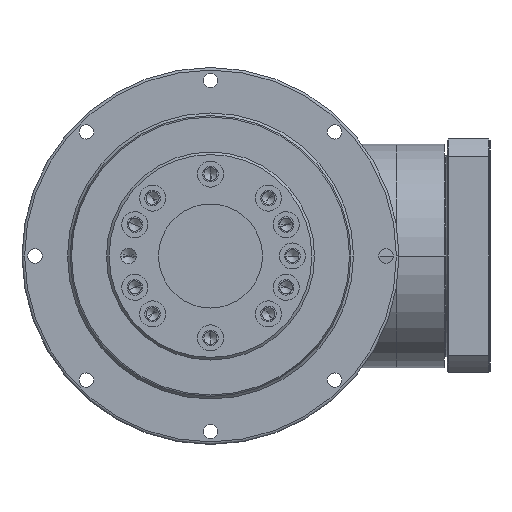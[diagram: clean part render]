
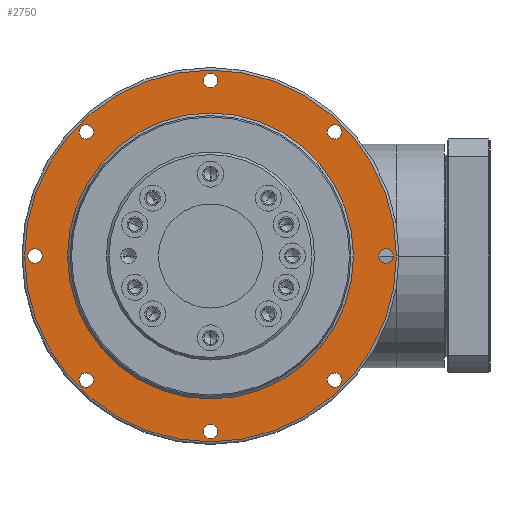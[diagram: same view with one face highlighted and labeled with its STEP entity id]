
A CAD part, left-side view. The second image highlights one B-rep face of the part: STEP entity #2750.
In plain terms, the highlighted planar face has unit normal (-1, 0, 0) as drawn and (1, 0, 0) by its records, which use the part's own axes.
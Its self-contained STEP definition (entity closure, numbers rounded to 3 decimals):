
#83=CARTESIAN_POINT('',(0.,47.73,-47.73));
#84=DIRECTION('',(-1.,0.,0.));
#85=DIRECTION('',(0.,-1.,0.));
#86=AXIS2_PLACEMENT_3D('',#83,#84,#85);
#88=CARTESIAN_POINT('',(0.,47.73,-47.73));
#89=DIRECTION('',(-1.,0.,0.));
#90=DIRECTION('',(0.,1.,0.));
#91=AXIS2_PLACEMENT_3D('',#88,#89,#90);
#93=CARTESIAN_POINT('',(0.,0.,-67.5));
#94=DIRECTION('',(-1.,0.,0.));
#95=DIRECTION('',(0.,-1.,0.));
#96=AXIS2_PLACEMENT_3D('',#93,#94,#95);
#98=CARTESIAN_POINT('',(0.,0.,-67.5));
#99=DIRECTION('',(-1.,0.,0.));
#100=DIRECTION('',(0.,1.,0.));
#101=AXIS2_PLACEMENT_3D('',#98,#99,#100);
#103=CARTESIAN_POINT('',(0.,-47.73,-47.73));
#104=DIRECTION('',(-1.,0.,0.));
#105=DIRECTION('',(0.,-1.,0.));
#106=AXIS2_PLACEMENT_3D('',#103,#104,#105);
#108=CARTESIAN_POINT('',(0.,-47.73,-47.73));
#109=DIRECTION('',(-1.,0.,0.));
#110=DIRECTION('',(0.,1.,0.));
#111=AXIS2_PLACEMENT_3D('',#108,#109,#110);
#113=CARTESIAN_POINT('',(0.,-67.5,0.));
#114=DIRECTION('',(-1.,0.,0.));
#115=DIRECTION('',(0.,-1.,0.));
#116=AXIS2_PLACEMENT_3D('',#113,#114,#115);
#118=CARTESIAN_POINT('',(0.,-67.5,0.));
#119=DIRECTION('',(-1.,0.,0.));
#120=DIRECTION('',(0.,1.,0.));
#121=AXIS2_PLACEMENT_3D('',#118,#119,#120);
#123=CARTESIAN_POINT('',(0.,-47.73,47.73));
#124=DIRECTION('',(-1.,0.,0.));
#125=DIRECTION('',(0.,-1.,0.));
#126=AXIS2_PLACEMENT_3D('',#123,#124,#125);
#128=CARTESIAN_POINT('',(0.,-47.73,47.73));
#129=DIRECTION('',(-1.,0.,0.));
#130=DIRECTION('',(0.,1.,0.));
#131=AXIS2_PLACEMENT_3D('',#128,#129,#130);
#133=CARTESIAN_POINT('',(0.,0.,67.5));
#134=DIRECTION('',(-1.,0.,0.));
#135=DIRECTION('',(0.,-1.,0.));
#136=AXIS2_PLACEMENT_3D('',#133,#134,#135);
#138=CARTESIAN_POINT('',(0.,0.,67.5));
#139=DIRECTION('',(-1.,0.,0.));
#140=DIRECTION('',(0.,1.,0.));
#141=AXIS2_PLACEMENT_3D('',#138,#139,#140);
#143=CARTESIAN_POINT('',(0.,47.73,47.73));
#144=DIRECTION('',(-1.,0.,0.));
#145=DIRECTION('',(0.,-1.,0.));
#146=AXIS2_PLACEMENT_3D('',#143,#144,#145);
#148=CARTESIAN_POINT('',(0.,47.73,47.73));
#149=DIRECTION('',(-1.,0.,0.));
#150=DIRECTION('',(0.,1.,0.));
#151=AXIS2_PLACEMENT_3D('',#148,#149,#150);
#153=CARTESIAN_POINT('',(0.,0.,0.));
#154=DIRECTION('',(1.,0.,0.));
#155=DIRECTION('',(0.,1.,0.));
#156=AXIS2_PLACEMENT_3D('',#153,#154,#155);
#158=CARTESIAN_POINT('',(0.,0.,0.));
#159=DIRECTION('',(-1.,0.,0.));
#160=DIRECTION('',(0.,1.,0.));
#161=AXIS2_PLACEMENT_3D('',#158,#159,#160);
#163=CARTESIAN_POINT('',(0.,67.5,0.));
#164=DIRECTION('',(-1.,0.,0.));
#165=DIRECTION('',(0.,-1.,0.));
#166=AXIS2_PLACEMENT_3D('',#163,#164,#165);
#168=CARTESIAN_POINT('',(0.,67.5,0.));
#169=DIRECTION('',(-1.,0.,0.));
#170=DIRECTION('',(0.,1.,0.));
#171=AXIS2_PLACEMENT_3D('',#168,#169,#170);
#1188=CARTESIAN_POINT('',(0.,0.,0.));
#1189=DIRECTION('',(-1.,0.,0.));
#1190=DIRECTION('',(0.,-1.,0.));
#1191=AXIS2_PLACEMENT_3D('',#1188,#1189,#1190);
#1203=CARTESIAN_POINT('',(0.,0.,0.));
#1204=DIRECTION('',(-1.,0.,0.));
#1205=DIRECTION('',(0.,1.,0.));
#1206=AXIS2_PLACEMENT_3D('',#1203,#1204,#1205);
#2017=CARTESIAN_POINT('',(0.,55.,0.));
#2018=CARTESIAN_POINT('',(0.,-55.,0.));
#2019=VERTEX_POINT('',#2017);
#2020=VERTEX_POINT('',#2018);
#2025=CARTESIAN_POINT('',(0.,64.75,0.));
#2026=CARTESIAN_POINT('',(0.,70.25,0.));
#2027=VERTEX_POINT('',#2025);
#2028=VERTEX_POINT('',#2026);
#2033=CARTESIAN_POINT('',(0.,44.98,47.73));
#2034=CARTESIAN_POINT('',(0.,50.48,47.73));
#2035=VERTEX_POINT('',#2033);
#2036=VERTEX_POINT('',#2034);
#2041=CARTESIAN_POINT('',(0.,-2.75,67.5));
#2042=CARTESIAN_POINT('',(0.,2.75,67.5));
#2043=VERTEX_POINT('',#2041);
#2044=VERTEX_POINT('',#2042);
#2049=CARTESIAN_POINT('',(0.,-50.48,47.73));
#2050=CARTESIAN_POINT('',(0.,-44.98,47.73));
#2051=VERTEX_POINT('',#2049);
#2052=VERTEX_POINT('',#2050);
#2057=CARTESIAN_POINT('',(0.,-70.25,0.));
#2058=CARTESIAN_POINT('',(0.,-64.75,0.));
#2059=VERTEX_POINT('',#2057);
#2060=VERTEX_POINT('',#2058);
#2065=CARTESIAN_POINT('',(0.,-50.48,-47.73));
#2066=CARTESIAN_POINT('',(0.,-44.98,-47.73));
#2067=VERTEX_POINT('',#2065);
#2068=VERTEX_POINT('',#2066);
#2073=CARTESIAN_POINT('',(0.,-2.75,-67.5));
#2074=CARTESIAN_POINT('',(0.,2.75,-67.5));
#2075=VERTEX_POINT('',#2073);
#2076=VERTEX_POINT('',#2074);
#2081=CARTESIAN_POINT('',(0.,44.98,-47.73));
#2082=CARTESIAN_POINT('',(0.,50.48,-47.73));
#2083=VERTEX_POINT('',#2081);
#2084=VERTEX_POINT('',#2082);
#2109=CARTESIAN_POINT('',(0.,-71.5,0.));
#2110=CARTESIAN_POINT('',(0.,71.5,0.));
#2111=VERTEX_POINT('',#2109);
#2112=VERTEX_POINT('',#2110);
#2687=CARTESIAN_POINT('',(0.,0.,0.));
#2688=DIRECTION('',(1.,0.,0.));
#2689=DIRECTION('',(0.,-1.,0.));
#2690=AXIS2_PLACEMENT_3D('',#2687,#2688,#2689);
#2691=PLANE('',#2690);
#2693=ORIENTED_EDGE('',*,*,#2692,.T.);
#2695=ORIENTED_EDGE('',*,*,#2694,.T.);
#2696=EDGE_LOOP('',(#2693,#2695));
#2697=FACE_OUTER_BOUND('',#2696,.F.);
#2699=ORIENTED_EDGE('',*,*,#2698,.F.);
#2701=ORIENTED_EDGE('',*,*,#2700,.F.);
#2702=EDGE_LOOP('',(#2699,#2701));
#2703=FACE_BOUND('',#2702,.F.);
#2705=ORIENTED_EDGE('',*,*,#2704,.F.);
#2707=ORIENTED_EDGE('',*,*,#2706,.F.);
#2708=EDGE_LOOP('',(#2705,#2707));
#2709=FACE_BOUND('',#2708,.F.);
#2711=ORIENTED_EDGE('',*,*,#2710,.F.);
#2713=ORIENTED_EDGE('',*,*,#2712,.F.);
#2714=EDGE_LOOP('',(#2711,#2713));
#2715=FACE_BOUND('',#2714,.F.);
#2717=ORIENTED_EDGE('',*,*,#2716,.F.);
#2719=ORIENTED_EDGE('',*,*,#2718,.F.);
#2720=EDGE_LOOP('',(#2717,#2719));
#2721=FACE_BOUND('',#2720,.F.);
#2723=ORIENTED_EDGE('',*,*,#2722,.F.);
#2725=ORIENTED_EDGE('',*,*,#2724,.F.);
#2726=EDGE_LOOP('',(#2723,#2725));
#2727=FACE_BOUND('',#2726,.F.);
#2729=ORIENTED_EDGE('',*,*,#2728,.F.);
#2731=ORIENTED_EDGE('',*,*,#2730,.F.);
#2732=EDGE_LOOP('',(#2729,#2731));
#2733=FACE_BOUND('',#2732,.F.);
#2735=ORIENTED_EDGE('',*,*,#2734,.F.);
#2737=ORIENTED_EDGE('',*,*,#2736,.F.);
#2738=EDGE_LOOP('',(#2735,#2737));
#2739=FACE_BOUND('',#2738,.F.);
#2740=ORIENTED_EDGE('',*,*,#2669,.T.);
#2741=ORIENTED_EDGE('',*,*,#2654,.F.);
#2742=EDGE_LOOP('',(#2740,#2741));
#2743=FACE_BOUND('',#2742,.F.);
#2745=ORIENTED_EDGE('',*,*,#2744,.F.);
#2747=ORIENTED_EDGE('',*,*,#2746,.F.);
#2748=EDGE_LOOP('',(#2745,#2747));
#2749=FACE_BOUND('',#2748,.F.);
#2750=ADVANCED_FACE('',(#2697,#2703,#2709,#2715,#2721,#2727,#2733,#2739,#2743,
#2749),#2691,.T.);
#87=CIRCLE('',#86,2.75);
#92=CIRCLE('',#91,2.75);
#97=CIRCLE('',#96,2.75);
#102=CIRCLE('',#101,2.75);
#107=CIRCLE('',#106,2.75);
#112=CIRCLE('',#111,2.75);
#117=CIRCLE('',#116,2.75);
#122=CIRCLE('',#121,2.75);
#127=CIRCLE('',#126,2.75);
#132=CIRCLE('',#131,2.75);
#137=CIRCLE('',#136,2.75);
#142=CIRCLE('',#141,2.75);
#147=CIRCLE('',#146,2.75);
#152=CIRCLE('',#151,2.75);
#157=CIRCLE('',#156,55.);
#162=CIRCLE('',#161,55.);
#167=CIRCLE('',#166,2.75);
#172=CIRCLE('',#171,2.75);
#1192=CIRCLE('',#1191,71.5);
#1207=CIRCLE('',#1206,71.5);
#2654=EDGE_CURVE('',#2019,#2020,#162,.T.);
#2669=EDGE_CURVE('',#2019,#2020,#157,.T.);
#2692=EDGE_CURVE('',#2111,#2112,#1192,.T.);
#2694=EDGE_CURVE('',#2112,#2111,#1207,.T.);
#2698=EDGE_CURVE('',#2083,#2084,#87,.T.);
#2700=EDGE_CURVE('',#2084,#2083,#92,.T.);
#2704=EDGE_CURVE('',#2075,#2076,#97,.T.);
#2706=EDGE_CURVE('',#2076,#2075,#102,.T.);
#2710=EDGE_CURVE('',#2067,#2068,#107,.T.);
#2712=EDGE_CURVE('',#2068,#2067,#112,.T.);
#2716=EDGE_CURVE('',#2059,#2060,#117,.T.);
#2718=EDGE_CURVE('',#2060,#2059,#122,.T.);
#2722=EDGE_CURVE('',#2051,#2052,#127,.T.);
#2724=EDGE_CURVE('',#2052,#2051,#132,.T.);
#2728=EDGE_CURVE('',#2043,#2044,#137,.T.);
#2730=EDGE_CURVE('',#2044,#2043,#142,.T.);
#2734=EDGE_CURVE('',#2035,#2036,#147,.T.);
#2736=EDGE_CURVE('',#2036,#2035,#152,.T.);
#2744=EDGE_CURVE('',#2027,#2028,#167,.T.);
#2746=EDGE_CURVE('',#2028,#2027,#172,.T.);
